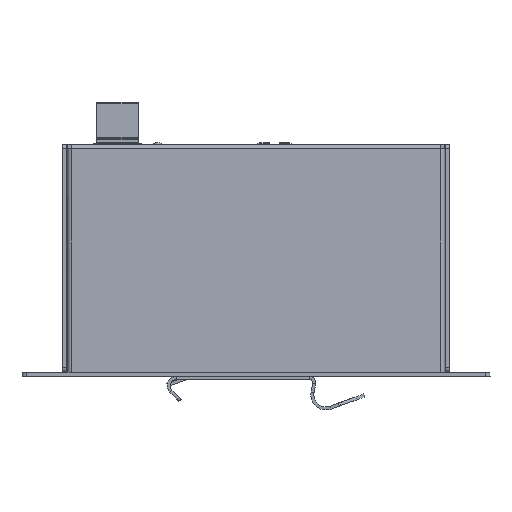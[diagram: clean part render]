
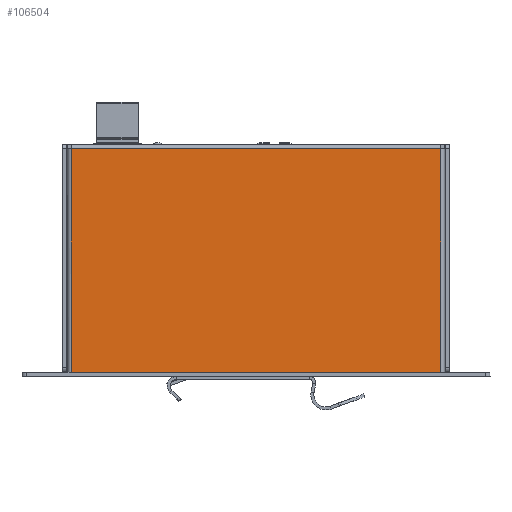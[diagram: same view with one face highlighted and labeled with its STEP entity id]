
A CAD part, front view. The second image highlights one B-rep face of the part: STEP entity #106504.
In plain terms, the highlighted planar face has unit normal (0, -1, 0).
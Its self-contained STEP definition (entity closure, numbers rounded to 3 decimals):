
#2882=PLANE('',#113909);
#8898=FACE_OUTER_BOUND('',#14654,.T.);
#14654=EDGE_LOOP('',(#82182,#82183,#82184,#82185));
#21311=LINE('',#165326,#34116);
#21314=LINE('',#165333,#34119);
#21316=LINE('',#165341,#34121);
#22512=LINE('',#169725,#35317);
#34116=VECTOR('',#125727,10.);
#34119=VECTOR('',#125736,10.);
#34121=VECTOR('',#125746,10.);
#35317=VECTOR('',#128502,10.);
#48949=VERTEX_POINT('',#165323);
#48950=VERTEX_POINT('',#165325);
#48951=VERTEX_POINT('',#165331);
#48953=VERTEX_POINT('',#165339);
#60438=EDGE_CURVE('',#48950,#48949,#21311,.T.);
#60442=EDGE_CURVE('',#48951,#48949,#21314,.T.);
#60446=EDGE_CURVE('',#48951,#48953,#21316,.T.);
#61965=EDGE_CURVE('',#48953,#48950,#22512,.T.);
#82182=ORIENTED_EDGE('',*,*,#60438,.T.);
#82183=ORIENTED_EDGE('',*,*,#60442,.F.);
#82184=ORIENTED_EDGE('',*,*,#60446,.T.);
#82185=ORIENTED_EDGE('',*,*,#61965,.T.);
#106504=ADVANCED_FACE('',(#8898),#2882,.F.);
#113909=AXIS2_PLACEMENT_3D('',#169737,#128516,#128517);
#125727=DIRECTION('',(0.,0.,-1.));
#125736=DIRECTION('',(-1.,0.,0.));
#125746=DIRECTION('',(0.,0.,1.));
#128502=DIRECTION('',(-1.,0.,0.));
#128516=DIRECTION('center_axis',(0.,1.,0.));
#128517=DIRECTION('ref_axis',(1.,0.,0.));
#165323=CARTESIAN_POINT('',(-45.365,0.,-28.));
#165325=CARTESIAN_POINT('',(-45.365,0.,26.99));
#165326=CARTESIAN_POINT('',(-45.365,0.,-14.));
#165331=CARTESIAN_POINT('',(45.365,0.,-28.));
#165333=CARTESIAN_POINT('',(46.375,0.,-28.));
#165339=CARTESIAN_POINT('',(45.365,0.,26.99));
#165341=CARTESIAN_POINT('',(45.365,0.,13.495));
#169725=CARTESIAN_POINT('',(-23.188,0.,26.99));
#169737=CARTESIAN_POINT('Origin',(0.,0.,0.));
